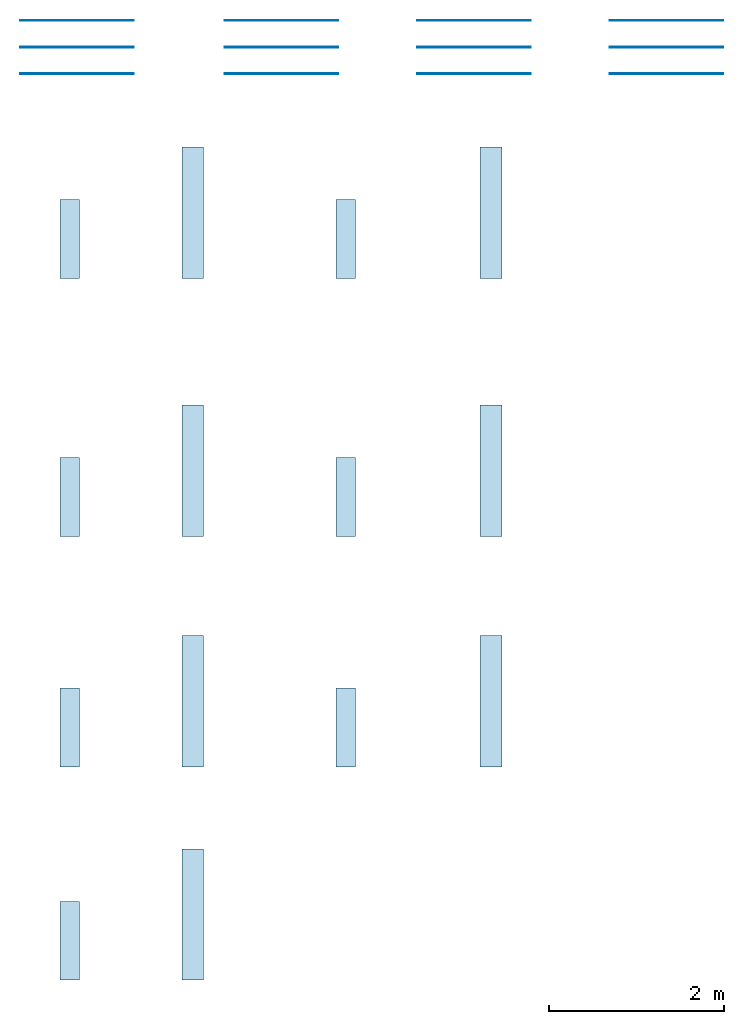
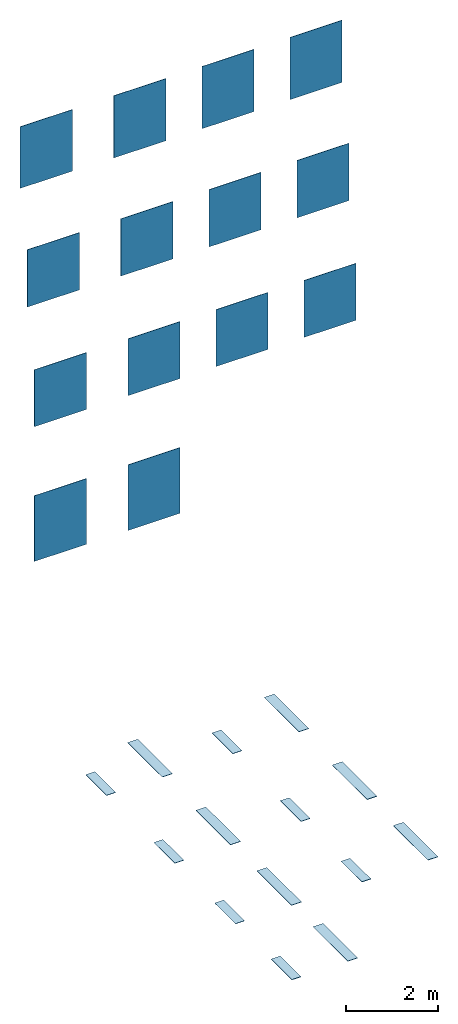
# One storey: 14 slabs, 14 walls.
"""IFC2X3 building model written with IfcOpenShell, lengths in millimetres."""

from ifc_helpers import new_model, entity, si_unit, converted_unit, derived_unit, direction, frame, frame_2d, origin, origin_2d_with_axis, place, context, subcontext, project, spatial, rectangle, extrude, material, layer, layer_set, layer_usage, type_object, element, save


model = new_model("IFC2X3")

# Units and contexts
model_context = context("Model", 3, precision=0.01, world=origin(), true_north=direction((6.12303176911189e-17, 1.0)))
body_context = subcontext(model_context, "Body", "Model", "MODEL_VIEW")
ifc_project = project(units=[si_unit("LENGTHUNIT", "METRE", prefix="MILLI"), si_unit("AREAUNIT", "SQUARE_METRE"), si_unit("VOLUMEUNIT", "CUBIC_METRE"), converted_unit("PLANEANGLEUNIT", "DEGREE", entity("IfcRatioMeasure", 0.0174532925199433), si_unit("PLANEANGLEUNIT", "RADIAN"), dimensions=[0, 0, 0, 0, 0, 0, 0]), si_unit("MASSUNIT", "GRAM", prefix="KILO"), derived_unit("MASSDENSITYUNIT", [(si_unit("MASSUNIT", "GRAM", prefix="KILO"), 1), (si_unit("LENGTHUNIT", "METRE"), -3)]), derived_unit("MOMENTOFINERTIAUNIT", [(si_unit("LENGTHUNIT", "METRE"), 4)]), si_unit("TIMEUNIT", "SECOND"), si_unit("FREQUENCYUNIT", "HERTZ"), si_unit("THERMODYNAMICTEMPERATUREUNIT", "DEGREE_CELSIUS"), derived_unit("THERMALTRANSMITTANCEUNIT", [(si_unit("MASSUNIT", "GRAM", prefix="KILO"), 1), (si_unit("THERMODYNAMICTEMPERATUREUNIT", "KELVIN"), -1), (si_unit("TIMEUNIT", "SECOND"), -3)]), derived_unit("VOLUMETRICFLOWRATEUNIT", [(si_unit("LENGTHUNIT", "METRE"), 3), (si_unit("TIMEUNIT", "SECOND"), -1)]), si_unit("ELECTRICCURRENTUNIT", "AMPERE"), si_unit("ELECTRICVOLTAGEUNIT", "VOLT"), si_unit("POWERUNIT", "WATT"), si_unit("FORCEUNIT", "NEWTON", prefix="KILO"), si_unit("ILLUMINANCEUNIT", "LUX"), si_unit("LUMINOUSFLUXUNIT", "LUMEN"), si_unit("LUMINOUSINTENSITYUNIT", "CANDELA"), derived_unit("USERDEFINED", [(si_unit("MASSUNIT", "GRAM", prefix="KILO"), -1), (si_unit("LENGTHUNIT", "METRE"), -2), (si_unit("TIMEUNIT", "SECOND"), 3), (si_unit("LUMINOUSFLUXUNIT", "LUMEN"), 1)]), derived_unit("LINEARVELOCITYUNIT", [(si_unit("LENGTHUNIT", "METRE"), 1), (si_unit("TIMEUNIT", "SECOND"), -1)]), si_unit("PRESSUREUNIT", "PASCAL"), derived_unit("USERDEFINED", [(si_unit("LENGTHUNIT", "METRE"), -2), (si_unit("MASSUNIT", "GRAM", prefix="KILO"), 1), (si_unit("TIMEUNIT", "SECOND"), -2)]), derived_unit("LINEARFORCEUNIT", [(si_unit("MASSUNIT", "GRAM", prefix="KILO"), 1), (si_unit("LENGTHUNIT", "METRE"), 1), (si_unit("TIMEUNIT", "SECOND"), -2), (si_unit("LENGTHUNIT", "METRE"), -1)]), derived_unit("PLANARFORCEUNIT", [(si_unit("MASSUNIT", "GRAM", prefix="KILO"), 1), (si_unit("LENGTHUNIT", "METRE"), 1), (si_unit("TIMEUNIT", "SECOND"), -2), (si_unit("LENGTHUNIT", "METRE"), -2)])], contexts=[model_context])

# Site, building, storey
site_placement = place(None, origin())
site = spatial("IfcSite", under=ifc_project, at=site_placement, Name="Default", CompositionType="ELEMENT")
building_placement = place(site_placement, origin())
building = spatial("IfcBuilding", under=site, at=building_placement, CompositionType="ELEMENT")
storey_placement = place(building_placement, origin())
storey = spatial("IfcBuildingStorey", under=building, at=storey_placement, Name="Level 0", CompositionType="ELEMENT", Elevation=0.0)

# Slabs
ifc_material_1 = material(Name="Deck-Blaze-22.5x90 LZ22")
ifc_layer_1 = layer(ifc_material_1, 9.0)
ifc_material_2 = material(Name="<Unnamed>")
ifc_layer_2 = layer(ifc_material_2, 1.0)
ifc_layer_set_1 = layer_set([ifc_layer_1, ifc_layer_2], Name="Floor:Floor_Tiles_Refin-Deck-Blaze-22.5x90 LZ22")
ifc_layer_usage_1 = layer_usage(ifc_layer_set_1, "AXIS3", "POSITIVE", 0.0)
slab_type_1 = type_object("IfcSlabType", Name="Floor:Floor_Tiles_Refin-Deck-Blaze-22.5x90 LZ22", PredefinedType="FLOOR", material=ifc_layer_set_1)
slab_1_placement = place(storey_placement, origin())
element("IfcSlab", 1, at=slab_1_placement, inside=storey, type_object=slab_type_1, material=ifc_layer_usage_1, Name="Floor:Floor_Tiles_Refin-Deck-Blaze-22.5x90 LZ22", ObjectType="Floor:Floor_Tiles_Refin-Deck-Blaze-22.5x90 LZ22", PredefinedType="FLOOR", context=body_context, shape_type="SweptSolid", body=[
    extrude(rectangle(XDim=900.0, YDim=225.0, at=frame_2d((5.40012479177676e-13, -5.40012479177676e-13), x_axis=(1.0, 0.0))), frame((6486.87520617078, 5639.4623742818, 0.0), z_axis=(0.0, 0.0, -1.0), x_axis=(0.0, 1.0, 0.0)), (0.0, 0.0, 1.0), 10.0),
])
ifc_material_3 = material(Name="Deck-Blaze-25x150 LX84")
ifc_layer_3 = layer(ifc_material_3, 9.0)
ifc_layer_4 = layer(ifc_material_2, 1.0)
ifc_layer_set_2 = layer_set([ifc_layer_3, ifc_layer_4], Name="Floor:Floor_Tiles_Refin-Deck-Blaze-25x150 LX84")
ifc_layer_usage_2 = layer_usage(ifc_layer_set_2, "AXIS3", "POSITIVE", 0.0)
slab_type_2 = type_object("IfcSlabType", Name="Floor:Floor_Tiles_Refin-Deck-Blaze-25x150 LX84", PredefinedType="FLOOR", material=ifc_layer_set_2)
slab_2_placement = place(storey_placement, origin())
element("IfcSlab", 2, at=slab_2_placement, inside=storey, type_object=slab_type_2, material=ifc_layer_usage_2, Name="Floor:Floor_Tiles_Refin-Deck-Blaze-25x150 LX84", ObjectType="Floor:Floor_Tiles_Refin-Deck-Blaze-25x150 LX84", PredefinedType="FLOOR", context=body_context, shape_type="SweptSolid", body=[
    extrude(rectangle(XDim=1500.0, YDim=249.999999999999, at=frame_2d((-5.11590769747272e-13, 0.0), x_axis=(1.0, 0.0))), frame((7892.39240545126, 5938.41920639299, 0.0), z_axis=(0.0, 0.0, -1.0), x_axis=(0.0, 1.0, 0.0)), (0.0, 0.0, 1.0), 10.0),
])
ifc_material_4 = material(Name="Deck-Bright-22.5x90 LZ23")
ifc_layer_5 = layer(ifc_material_4, 9.0)
ifc_layer_6 = layer(ifc_material_2, 1.0)
ifc_layer_set_3 = layer_set([ifc_layer_5, ifc_layer_6], Name="Floor:Floor_Tiles_Refin-Deck-Bright-22.5x90 LZ23")
ifc_layer_usage_3 = layer_usage(ifc_layer_set_3, "AXIS3", "POSITIVE", 0.0)
slab_type_3 = type_object("IfcSlabType", Name="Floor:Floor_Tiles_Refin-Deck-Bright-22.5x90 LZ23", PredefinedType="FLOOR", material=ifc_layer_set_3)
slab_3_placement = place(storey_placement, origin())
element("IfcSlab", 3, at=slab_3_placement, inside=storey, type_object=slab_type_3, material=ifc_layer_usage_3, Name="Floor:Floor_Tiles_Refin-Deck-Bright-22.5x90 LZ23", ObjectType="Floor:Floor_Tiles_Refin-Deck-Bright-22.5x90 LZ23", PredefinedType="FLOOR", context=body_context, shape_type="SweptSolid", body=[
    extrude(rectangle(XDim=900.0, YDim=225.0, at=frame_2d((-5.40012479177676e-13, -5.40012479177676e-13), x_axis=(1.0, 0.0))), frame((9639.68614186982, 5639.46237428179, 0.0), z_axis=(0.0, 0.0, -1.0), x_axis=(0.0, 1.0, 0.0)), (0.0, 0.0, 1.0), 10.0),
])
ifc_material_5 = material(Name="Deck-Bright-25x150 LX85")
ifc_layer_7 = layer(ifc_material_5, 9.0)
ifc_layer_8 = layer(ifc_material_2, 1.0)
ifc_layer_set_4 = layer_set([ifc_layer_7, ifc_layer_8], Name="Floor:Floor_Tiles_Refin-Deck-Bright-25x150 LX85")
ifc_layer_usage_4 = layer_usage(ifc_layer_set_4, "AXIS3", "POSITIVE", 0.0)
slab_type_4 = type_object("IfcSlabType", Name="Floor:Floor_Tiles_Refin-Deck-Bright-25x150 LX85", PredefinedType="FLOOR", material=ifc_layer_set_4)
slab_4_placement = place(storey_placement, origin())
element("IfcSlab", 4, at=slab_4_placement, inside=storey, type_object=slab_type_4, material=ifc_layer_usage_4, Name="Floor:Floor_Tiles_Refin-Deck-Bright-25x150 LX85", ObjectType="Floor:Floor_Tiles_Refin-Deck-Bright-25x150 LX85", PredefinedType="FLOOR", context=body_context, shape_type="SweptSolid", body=[
    extrude(rectangle(XDim=1500.0, YDim=249.999999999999, at=frame_2d((-5.11590769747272e-13, 0.0), x_axis=(1.0, 0.0))), frame((11302.3924054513, 5938.41920639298, 0.0), z_axis=(0.0, 0.0, -1.0), x_axis=(0.0, 1.0, 0.0)), (0.0, 0.0, 1.0), 10.0),
])
ifc_material_6 = material(Name="Deck-Dawn-22.5x90 LZ24")
ifc_layer_9 = layer(ifc_material_6, 9.0)
ifc_layer_10 = layer(ifc_material_2, 1.0)
ifc_layer_set_5 = layer_set([ifc_layer_9, ifc_layer_10], Name="Floor:Floor_Tiles_Refin-Deck-Dawn-22.5x90 LZ24")
ifc_layer_usage_5 = layer_usage(ifc_layer_set_5, "AXIS3", "POSITIVE", 0.0)
slab_type_5 = type_object("IfcSlabType", Name="Floor:Floor_Tiles_Refin-Deck-Dawn-22.5x90 LZ24", PredefinedType="FLOOR", material=ifc_layer_set_5)
slab_5_placement = place(storey_placement, origin())
element("IfcSlab", 5, at=slab_5_placement, inside=storey, type_object=slab_type_5, material=ifc_layer_usage_5, Name="Floor:Floor_Tiles_Refin-Deck-Dawn-22.5x90 LZ24", ObjectType="Floor:Floor_Tiles_Refin-Deck-Dawn-22.5x90 LZ24", PredefinedType="FLOOR", context=body_context, shape_type="SweptSolid", body=[
    extrude(rectangle(XDim=900.0, YDim=225.0, at=frame_2d((0.0, -5.40012479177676e-13), x_axis=(1.0, 0.0))), frame((6486.87520617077, 2689.4623742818, 0.0), z_axis=(0.0, 0.0, -1.0), x_axis=(0.0, 1.0, 0.0)), (0.0, 0.0, 1.0), 10.0),
])
ifc_material_7 = material(Name="Deck-Dawn-25x150 LX86")
ifc_layer_11 = layer(ifc_material_7, 9.0)
ifc_layer_12 = layer(ifc_material_2, 1.0)
ifc_layer_set_6 = layer_set([ifc_layer_11, ifc_layer_12], Name="Floor:Floor_Tiles_Refin-Deck-Dawn-25x150 LX86")
ifc_layer_usage_6 = layer_usage(ifc_layer_set_6, "AXIS3", "POSITIVE", 0.0)
slab_type_6 = type_object("IfcSlabType", Name="Floor:Floor_Tiles_Refin-Deck-Dawn-25x150 LX86", PredefinedType="FLOOR", material=ifc_layer_set_6)
slab_6_placement = place(storey_placement, origin())
element("IfcSlab", 6, at=slab_6_placement, inside=storey, type_object=slab_type_6, material=ifc_layer_usage_6, Name="Floor:Floor_Tiles_Refin-Deck-Dawn-25x150 LX86", ObjectType="Floor:Floor_Tiles_Refin-Deck-Dawn-25x150 LX86", PredefinedType="FLOOR", context=body_context, shape_type="SweptSolid", body=[
    extrude(rectangle(XDim=1500.0, YDim=249.999999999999, at=origin_2d_with_axis()), frame((7892.39240545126, 2989.4623742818, 0.0), z_axis=(0.0, 0.0, -1.0), x_axis=(0.0, 1.0, 0.0)), (0.0, 0.0, 1.0), 10.0),
])
ifc_material_8 = material(Name="Deck-Day-22.5x90 LZ25")
ifc_layer_13 = layer(ifc_material_8, 9.0)
ifc_layer_14 = layer(ifc_material_2, 1.0)
ifc_layer_set_7 = layer_set([ifc_layer_13, ifc_layer_14], Name="Floor:Floor_Tiles_Refin-Deck-Day-22.5x90 LZ25")
ifc_layer_usage_7 = layer_usage(ifc_layer_set_7, "AXIS3", "POSITIVE", 0.0)
slab_type_7 = type_object("IfcSlabType", Name="Floor:Floor_Tiles_Refin-Deck-Day-22.5x90 LZ25", PredefinedType="FLOOR", material=ifc_layer_set_7)
slab_7_placement = place(storey_placement, origin())
element("IfcSlab", 7, at=slab_7_placement, inside=storey, type_object=slab_type_7, material=ifc_layer_usage_7, Name="Floor:Floor_Tiles_Refin-Deck-Day-22.5x90 LZ25", ObjectType="Floor:Floor_Tiles_Refin-Deck-Day-22.5x90 LZ25", PredefinedType="FLOOR", context=body_context, shape_type="SweptSolid", body=[
    extrude(rectangle(XDim=900.0, YDim=225.0, at=frame_2d((0.0, -5.40012479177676e-13), x_axis=(1.0, 0.0))), frame((9639.68614186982, 2689.46237428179, 0.0), z_axis=(0.0, 0.0, -1.0), x_axis=(0.0, 1.0, 0.0)), (0.0, 0.0, 1.0), 10.0),
])
ifc_material_9 = material(Name="Deck-Day-25x150 LX87")
ifc_layer_15 = layer(ifc_material_9, 9.0)
ifc_layer_16 = layer(ifc_material_2, 1.0)
ifc_layer_set_8 = layer_set([ifc_layer_15, ifc_layer_16], Name="Floor:Floor_Tiles_Refin-Deck-Day-25x150 LX87")
ifc_layer_usage_8 = layer_usage(ifc_layer_set_8, "AXIS3", "POSITIVE", 0.0)
slab_type_8 = type_object("IfcSlabType", Name="Floor:Floor_Tiles_Refin-Deck-Day-25x150 LX87", PredefinedType="FLOOR", material=ifc_layer_set_8)
slab_8_placement = place(storey_placement, origin())
element("IfcSlab", 8, at=slab_8_placement, inside=storey, type_object=slab_type_8, material=ifc_layer_usage_8, Name="Floor:Floor_Tiles_Refin-Deck-Day-25x150 LX87", ObjectType="Floor:Floor_Tiles_Refin-Deck-Day-25x150 LX87", PredefinedType="FLOOR", context=body_context, shape_type="SweptSolid", body=[
    extrude(rectangle(XDim=1500.0, YDim=249.999999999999, at=origin_2d_with_axis()), frame((11302.1861418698, 2989.46237428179, 0.0), z_axis=(0.0, 0.0, -1.0), x_axis=(0.0, 1.0, 0.0)), (0.0, 0.0, 1.0), 10.0),
])
ifc_material_10 = material(Name="Deck-Dusk-22.5x90 LZ26")
ifc_layer_17 = layer(ifc_material_10, 9.0)
ifc_layer_18 = layer(ifc_material_2, 1.0)
ifc_layer_set_9 = layer_set([ifc_layer_17, ifc_layer_18], Name="Floor:Floor_Tiles_Refin-Deck-Dusk-22.5x90 LZ26")
ifc_layer_usage_9 = layer_usage(ifc_layer_set_9, "AXIS3", "POSITIVE", 0.0)
slab_type_9 = type_object("IfcSlabType", Name="Floor:Floor_Tiles_Refin-Deck-Dusk-22.5x90 LZ26", PredefinedType="FLOOR", material=ifc_layer_set_9)
slab_9_placement = place(storey_placement, origin())
element("IfcSlab", 9, at=slab_9_placement, inside=storey, type_object=slab_type_9, material=ifc_layer_usage_9, Name="Floor:Floor_Tiles_Refin-Deck-Dusk-22.5x90 LZ26", ObjectType="Floor:Floor_Tiles_Refin-Deck-Dusk-22.5x90 LZ26", PredefinedType="FLOOR", context=body_context, shape_type="SweptSolid", body=[
    extrude(rectangle(XDim=900.0, YDim=225.0, at=frame_2d((0.0, -5.40012479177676e-13), x_axis=(1.0, 0.0))), frame((6486.87520617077, 54.4623742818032, 0.0), z_axis=(0.0, 0.0, -1.0), x_axis=(0.0, 1.0, 0.0)), (0.0, 0.0, 1.0), 10.0),
])
ifc_material_11 = material(Name="Deck-Dusk-25x150 LX88")
ifc_layer_19 = layer(ifc_material_11, 9.0)
ifc_layer_20 = layer(ifc_material_2, 1.0)
ifc_layer_set_10 = layer_set([ifc_layer_19, ifc_layer_20], Name="Floor:Floor_Tiles_Refin-Deck-Dusk-25x150 LX88")
ifc_layer_usage_10 = layer_usage(ifc_layer_set_10, "AXIS3", "POSITIVE", 0.0)
slab_type_10 = type_object("IfcSlabType", Name="Floor:Floor_Tiles_Refin-Deck-Dusk-25x150 LX88", PredefinedType="FLOOR", material=ifc_layer_set_10)
slab_10_placement = place(storey_placement, origin())
element("IfcSlab", 10, at=slab_10_placement, inside=storey, type_object=slab_type_10, material=ifc_layer_usage_10, Name="Floor:Floor_Tiles_Refin-Deck-Dusk-25x150 LX88", ObjectType="Floor:Floor_Tiles_Refin-Deck-Dusk-25x150 LX88", PredefinedType="FLOOR", context=body_context, shape_type="SweptSolid", body=[
    extrude(rectangle(XDim=1500.0, YDim=249.999999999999, at=origin_2d_with_axis()), frame((7892.39240545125, 353.436723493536, 0.0), z_axis=(0.0, 0.0, -1.0), x_axis=(0.0, 1.0, 0.0)), (0.0, 0.0, 1.0), 10.0),
])
ifc_material_12 = material(Name="Deck-Flare-22.5x90 LZ27")
ifc_layer_21 = layer(ifc_material_12, 9.0)
ifc_layer_22 = layer(ifc_material_2, 1.0)
ifc_layer_set_11 = layer_set([ifc_layer_21, ifc_layer_22], Name="Floor:Floor_Tiles_Refin-Deck-Flare-22.5x90 LZ27")
ifc_layer_usage_11 = layer_usage(ifc_layer_set_11, "AXIS3", "POSITIVE", 0.0)
slab_type_11 = type_object("IfcSlabType", Name="Floor:Floor_Tiles_Refin-Deck-Flare-22.5x90 LZ27", PredefinedType="FLOOR", material=ifc_layer_set_11)
slab_11_placement = place(storey_placement, origin())
element("IfcSlab", 11, at=slab_11_placement, inside=storey, type_object=slab_type_11, material=ifc_layer_usage_11, Name="Floor:Floor_Tiles_Refin-Deck-Flare-22.5x90 LZ27", ObjectType="Floor:Floor_Tiles_Refin-Deck-Flare-22.5x90 LZ27", PredefinedType="FLOOR", context=body_context, shape_type="SweptSolid", body=[
    extrude(rectangle(XDim=900.0, YDim=225.0, at=frame_2d((0.0, -5.40012479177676e-13), x_axis=(1.0, 0.0))), frame((9639.68614186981, 54.4623742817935, 0.0), z_axis=(0.0, 0.0, -1.0), x_axis=(0.0, 1.0, 0.0)), (0.0, 0.0, 1.0), 10.0),
])
ifc_material_13 = material(Name="Deck-Flare-25x150 LX89")
ifc_layer_23 = layer(ifc_material_13, 9.0)
ifc_layer_24 = layer(ifc_material_2, 1.0)
ifc_layer_set_12 = layer_set([ifc_layer_23, ifc_layer_24], Name="Floor:Floor_Tiles_Refin-Deck-Flare-25x150 LX89")
ifc_layer_usage_12 = layer_usage(ifc_layer_set_12, "AXIS3", "POSITIVE", 0.0)
slab_type_12 = type_object("IfcSlabType", Name="Floor:Floor_Tiles_Refin-Deck-Flare-25x150 LX89", PredefinedType="FLOOR", material=ifc_layer_set_12)
slab_12_placement = place(storey_placement, origin())
element("IfcSlab", 12, at=slab_12_placement, inside=storey, type_object=slab_type_12, material=ifc_layer_usage_12, Name="Floor:Floor_Tiles_Refin-Deck-Flare-25x150 LX89", ObjectType="Floor:Floor_Tiles_Refin-Deck-Flare-25x150 LX89", PredefinedType="FLOOR", context=body_context, shape_type="SweptSolid", body=[
    extrude(rectangle(XDim=1500.0, YDim=249.999999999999, at=origin_2d_with_axis()), frame((11302.1861418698, 353.436723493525, 0.0), z_axis=(0.0, 0.0, -1.0), x_axis=(0.0, 1.0, 0.0)), (0.0, 0.0, 1.0), 10.0),
])
ifc_material_14 = material(Name="Deck-Night-22.5x90 LJ72")
ifc_layer_25 = layer(ifc_material_14, 9.0)
ifc_layer_26 = layer(ifc_material_2, 1.0)
ifc_layer_set_13 = layer_set([ifc_layer_25, ifc_layer_26], Name="Floor:Floor_Tiles_Refin-Deck-Night-22.5x90 LJ72")
ifc_layer_usage_13 = layer_usage(ifc_layer_set_13, "AXIS3", "POSITIVE", 0.0)
slab_type_13 = type_object("IfcSlabType", Name="Floor:Floor_Tiles_Refin-Deck-Night-22.5x90 LJ72", PredefinedType="FLOOR", material=ifc_layer_set_13)
slab_13_placement = place(storey_placement, origin())
element("IfcSlab", 13, at=slab_13_placement, inside=storey, type_object=slab_type_13, material=ifc_layer_usage_13, Name="Floor:Floor_Tiles_Refin-Deck-Night-22.5x90 LJ72", ObjectType="Floor:Floor_Tiles_Refin-Deck-Night-22.5x90 LJ72", PredefinedType="FLOOR", context=body_context, shape_type="SweptSolid", body=[
    extrude(rectangle(XDim=900.0, YDim=225.0, at=frame_2d((0.0, -5.40012479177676e-13), x_axis=(1.0, 0.0))), frame((6486.87520617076, -2382.58892729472, 0.0), z_axis=(0.0, 0.0, -1.0), x_axis=(0.0, 1.0, 0.0)), (0.0, 0.0, 1.0), 10.0),
])
ifc_material_15 = material(Name="Deck-Night-25x150 LJ71")
ifc_layer_27 = layer(ifc_material_15, 9.0)
ifc_layer_28 = layer(ifc_material_2, 1.0)
ifc_layer_set_14 = layer_set([ifc_layer_27, ifc_layer_28], Name="Floor:Floor_Tiles_Refin-Deck-Night-25x150 LJ71")
ifc_layer_usage_14 = layer_usage(ifc_layer_set_14, "AXIS3", "POSITIVE", 0.0)
slab_type_14 = type_object("IfcSlabType", Name="Floor:Floor_Tiles_Refin-Deck-Night-25x150 LJ71", PredefinedType="FLOOR", material=ifc_layer_set_14)
slab_14_placement = place(storey_placement, origin())
element("IfcSlab", 14, at=slab_14_placement, inside=storey, type_object=slab_type_14, material=ifc_layer_usage_14, Name="Floor:Floor_Tiles_Refin-Deck-Night-25x150 LJ71", ObjectType="Floor:Floor_Tiles_Refin-Deck-Night-25x150 LJ71", PredefinedType="FLOOR", context=body_context, shape_type="SweptSolid", body=[
    extrude(rectangle(XDim=1500.0, YDim=249.999999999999, at=origin_2d_with_axis()), frame((7892.39240545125, -2082.58892729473, 0.0), z_axis=(0.0, 0.0, -1.0), x_axis=(0.0, 1.0, 0.0)), (0.0, 0.0, 1.0), 10.0),
])

# Walls
ifc_layer_29 = layer(ifc_material_2, 1.0)
ifc_layer_30 = layer(ifc_material_3, 9.0)
ifc_layer_set_15 = layer_set([ifc_layer_29, ifc_layer_30], Name="Basic Wall:Wall_Tiles_Refin-Deck-Blaze-25x150 LX84")
ifc_layer_usage_15 = layer_usage(ifc_layer_set_15, "AXIS2", "NEGATIVE", 5.0)
wall_type_1 = type_object("IfcWallType", Name="Basic Wall:Wall_Tiles_Refin-Deck-Blaze-25x150 LX84", PredefinedType="STANDARD", material=ifc_layer_set_15)
wall_1_placement = place(storey_placement, frame((8257.37520617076, 8137.38386313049, 14387.6770443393)))
element("IfcWallStandardCase", 15, at=wall_1_placement, inside=storey, type_object=wall_type_1, material=ifc_layer_usage_15, Name="Basic Wall:Wall_Tiles_Refin-Deck-Blaze-25x150 LX84", ObjectType="Basic Wall:Wall_Tiles_Refin-Deck-Blaze-25x150 LX84", context=body_context, shape_type="SweptSolid", body=[
    extrude(rectangle(XDim=1300.0, YDim=9.99999999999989, at=frame_2d((650.0, 7.63833440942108e-14), x_axis=(-1.0, 0.0))), origin(), (0.0, 0.0, 1.0), 1641.74173522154),
])
ifc_layer_31 = layer(ifc_material_2, 1.0)
ifc_layer_32 = layer(ifc_material_4, 9.0)
ifc_layer_set_16 = layer_set([ifc_layer_31, ifc_layer_32], Name="Basic Wall:Wall_Tiles_Refin-Deck-Bright-22.5x90 LZ23")
ifc_layer_usage_16 = layer_usage(ifc_layer_set_16, "AXIS2", "NEGATIVE", 5.0)
wall_type_2 = type_object("IfcWallType", Name="Basic Wall:Wall_Tiles_Refin-Deck-Bright-22.5x90 LZ23", PredefinedType="STANDARD", material=ifc_layer_set_16)
wall_2_placement = place(storey_placement, frame((10457.3752061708, 8137.38386313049, 14387.6770443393)))
element("IfcWallStandardCase", 16, at=wall_2_placement, inside=storey, type_object=wall_type_2, material=ifc_layer_usage_16, Name="Basic Wall:Wall_Tiles_Refin-Deck-Bright-22.5x90 LZ23", ObjectType="Basic Wall:Wall_Tiles_Refin-Deck-Bright-22.5x90 LZ23", context=body_context, shape_type="SweptSolid", body=[
    extrude(rectangle(XDim=1300.0, YDim=9.99999999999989, at=frame_2d((650.0, 7.63833440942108e-14), x_axis=(-1.0, 0.0))), origin(), (0.0, 0.0, 1.0), 1641.74173522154),
])
ifc_layer_33 = layer(ifc_material_2, 1.0)
ifc_layer_34 = layer(ifc_material_1, 9.0)
ifc_layer_set_17 = layer_set([ifc_layer_33, ifc_layer_34], Name="Basic Wall:Wall_Tiles_Refin-Deck-Blaze-22.5x90 LZ22")
ifc_layer_usage_17 = layer_usage(ifc_layer_set_17, "AXIS2", "NEGATIVE", 5.0)
wall_type_3 = type_object("IfcWallType", Name="Basic Wall:Wall_Tiles_Refin-Deck-Blaze-22.5x90 LZ22", PredefinedType="STANDARD", material=ifc_layer_set_17)
wall_3_placement = place(storey_placement, frame((5917.37520617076, 8137.38386313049, 14403.726734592)))
element("IfcWallStandardCase", 17, at=wall_3_placement, inside=storey, type_object=wall_type_3, material=ifc_layer_usage_17, Name="Basic Wall:Wall_Tiles_Refin-Deck-Blaze-22.5x90 LZ22", ObjectType="Basic Wall:Wall_Tiles_Refin-Deck-Blaze-22.5x90 LZ22", context=body_context, shape_type="SweptSolid", body=[
    extrude(rectangle(XDim=1300.0, YDim=9.99999999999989, at=frame_2d((650.0, 7.63833440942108e-14), x_axis=(-1.0, 0.0))), origin(), (0.0, 0.0, 1.0), 1625.69204496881),
])
ifc_layer_35 = layer(ifc_material_2, 1.0)
ifc_layer_36 = layer(ifc_material_6, 9.0)
ifc_layer_set_18 = layer_set([ifc_layer_35, ifc_layer_36], Name="Basic Wall:Wall_Tiles_Refin-Deck-Dawn-22.5x90 LZ24")
ifc_layer_usage_18 = layer_usage(ifc_layer_set_18, "AXIS2", "NEGATIVE", 5.0)
wall_type_4 = type_object("IfcWallType", Name="Basic Wall:Wall_Tiles_Refin-Deck-Dawn-22.5x90 LZ24", PredefinedType="STANDARD", material=ifc_layer_set_18)
wall_4_placement = place(storey_placement, frame((5917.37520617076, 7832.38386313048, 11452.5436262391)))
element("IfcWallStandardCase", 18, at=wall_4_placement, inside=storey, type_object=wall_type_4, material=ifc_layer_usage_18, Name="Basic Wall:Wall_Tiles_Refin-Deck-Dawn-22.5x90 LZ24", ObjectType="Basic Wall:Wall_Tiles_Refin-Deck-Dawn-22.5x90 LZ24", context=body_context, shape_type="SweptSolid", body=[
    extrude(rectangle(XDim=1300.0, YDim=9.99999999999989, at=frame_2d((650.0, 0.0), x_axis=(-1.0, 0.0))), origin(), (0.0, 0.0, 1.0), 1513.19855655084),
])
ifc_layer_37 = layer(ifc_material_2, 1.0)
ifc_layer_38 = layer(ifc_material_7, 9.0)
ifc_layer_set_19 = layer_set([ifc_layer_37, ifc_layer_38], Name="Basic Wall:Wall_Tiles_Refin-Deck-Dawn-25x150 LX86")
ifc_layer_usage_19 = layer_usage(ifc_layer_set_19, "AXIS2", "NEGATIVE", 5.0)
wall_type_5 = type_object("IfcWallType", Name="Basic Wall:Wall_Tiles_Refin-Deck-Dawn-25x150 LX86", PredefinedType="STANDARD", material=ifc_layer_set_19)
wall_5_placement = place(storey_placement, frame((8257.37520617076, 7832.38386313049, 11452.5436262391)))
element("IfcWallStandardCase", 19, at=wall_5_placement, inside=storey, type_object=wall_type_5, material=ifc_layer_usage_19, Name="Basic Wall:Wall_Tiles_Refin-Deck-Dawn-25x150 LX86", ObjectType="Basic Wall:Wall_Tiles_Refin-Deck-Dawn-25x150 LX86", context=body_context, shape_type="SweptSolid", body=[
    extrude(rectangle(XDim=1300.0, YDim=9.99999999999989, at=frame_2d((650.0, 0.0), x_axis=(-1.0, 0.0))), origin(), (0.0, 0.0, 1.0), 1513.19855655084),
])
ifc_layer_39 = layer(ifc_material_2, 1.0)
ifc_layer_40 = layer(ifc_material_8, 9.0)
ifc_layer_set_20 = layer_set([ifc_layer_39, ifc_layer_40], Name="Basic Wall:Wall_Tiles_Refin-Deck-Day-22.5x90 LZ25")
ifc_layer_usage_20 = layer_usage(ifc_layer_set_20, "AXIS2", "NEGATIVE", 5.0)
wall_type_6 = type_object("IfcWallType", Name="Basic Wall:Wall_Tiles_Refin-Deck-Day-22.5x90 LZ25", PredefinedType="STANDARD", material=ifc_layer_set_20)
wall_6_placement = place(storey_placement, frame((10457.3752061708, 7832.38386313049, 11452.5436262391)))
element("IfcWallStandardCase", 20, at=wall_6_placement, inside=storey, type_object=wall_type_6, material=ifc_layer_usage_20, Name="Basic Wall:Wall_Tiles_Refin-Deck-Day-22.5x90 LZ25", ObjectType="Basic Wall:Wall_Tiles_Refin-Deck-Day-22.5x90 LZ25", context=body_context, shape_type="SweptSolid", body=[
    extrude(rectangle(XDim=1300.0, YDim=9.99999999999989, at=frame_2d((650.000000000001, 0.0), x_axis=(-1.0, 0.0))), origin(), (0.0, 0.0, 1.0), 1513.19855655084),
])
ifc_layer_41 = layer(ifc_material_2, 1.0)
ifc_layer_42 = layer(ifc_material_10, 9.0)
ifc_layer_set_21 = layer_set([ifc_layer_41, ifc_layer_42], Name="Basic Wall:Wall_Tiles_Refin-Deck-Dusk-22.5x90 LZ26")
ifc_layer_usage_21 = layer_usage(ifc_layer_set_21, "AXIS2", "NEGATIVE", 5.0)
wall_type_7 = type_object("IfcWallType", Name="Basic Wall:Wall_Tiles_Refin-Deck-Dusk-22.5x90 LZ26", PredefinedType="STANDARD", material=ifc_layer_set_21)
wall_7_placement = place(storey_placement, frame((5917.37520617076, 7527.38386313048, 8479.10272143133)))
element("IfcWallStandardCase", 21, at=wall_7_placement, inside=storey, type_object=wall_type_7, material=ifc_layer_usage_21, Name="Basic Wall:Wall_Tiles_Refin-Deck-Dusk-22.5x90 LZ26", ObjectType="Basic Wall:Wall_Tiles_Refin-Deck-Dusk-22.5x90 LZ26", context=body_context, shape_type="SweptSolid", body=[
    extrude(rectangle(XDim=1300.0, YDim=9.99999999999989, at=frame_2d((650.0, 0.0), x_axis=(-1.0, 0.0))), origin(), (0.0, 0.0, 1.0), 1502.57401590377),
])
ifc_layer_43 = layer(ifc_material_2, 1.0)
ifc_layer_44 = layer(ifc_material_11, 9.0)
ifc_layer_set_22 = layer_set([ifc_layer_43, ifc_layer_44], Name="Basic Wall:Wall_Tiles_Refin-Deck-Dusk-25x150 LX88")
ifc_layer_usage_22 = layer_usage(ifc_layer_set_22, "AXIS2", "NEGATIVE", 5.0)
wall_type_8 = type_object("IfcWallType", Name="Basic Wall:Wall_Tiles_Refin-Deck-Dusk-25x150 LX88", PredefinedType="STANDARD", material=ifc_layer_set_22)
wall_8_placement = place(storey_placement, frame((8257.37520617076, 7527.38386313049, 8479.10272143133)))
element("IfcWallStandardCase", 22, at=wall_8_placement, inside=storey, type_object=wall_type_8, material=ifc_layer_usage_22, Name="Basic Wall:Wall_Tiles_Refin-Deck-Dusk-25x150 LX88", ObjectType="Basic Wall:Wall_Tiles_Refin-Deck-Dusk-25x150 LX88", context=body_context, shape_type="SweptSolid", body=[
    extrude(rectangle(XDim=1300.0, YDim=9.99999999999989, at=frame_2d((650.0, 0.0), x_axis=(-1.0, 0.0))), origin(), (0.0, 0.0, 1.0), 1502.57401590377),
])
ifc_layer_45 = layer(ifc_material_2, 1.0)
ifc_layer_46 = layer(ifc_material_12, 9.0)
ifc_layer_set_23 = layer_set([ifc_layer_45, ifc_layer_46], Name="Basic Wall:Wall_Tiles_Refin-Deck-Flare-22.5x90 LZ27")
ifc_layer_usage_23 = layer_usage(ifc_layer_set_23, "AXIS2", "NEGATIVE", 5.0)
wall_type_9 = type_object("IfcWallType", Name="Basic Wall:Wall_Tiles_Refin-Deck-Flare-22.5x90 LZ27", PredefinedType="STANDARD", material=ifc_layer_set_23)
wall_9_placement = place(storey_placement, frame((10457.3752061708, 7527.38386313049, 8479.10272143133)))
element("IfcWallStandardCase", 23, at=wall_9_placement, inside=storey, type_object=wall_type_9, material=ifc_layer_usage_23, Name="Basic Wall:Wall_Tiles_Refin-Deck-Flare-22.5x90 LZ27", ObjectType="Basic Wall:Wall_Tiles_Refin-Deck-Flare-22.5x90 LZ27", context=body_context, shape_type="SweptSolid", body=[
    extrude(rectangle(XDim=1300.0, YDim=9.99999999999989, at=frame_2d((650.000000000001, 0.0), x_axis=(-1.0, 0.0))), origin(), (0.0, 0.0, 1.0), 1502.57401590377),
])
ifc_layer_47 = layer(ifc_material_2, 1.0)
ifc_layer_48 = layer(ifc_material_5, 9.0)
ifc_layer_set_24 = layer_set([ifc_layer_47, ifc_layer_48], Name="Basic Wall:Wall_Tiles_Refin-Deck-Bright-25x150 LX85")
ifc_layer_usage_24 = layer_usage(ifc_layer_set_24, "AXIS2", "NEGATIVE", 5.0)
wall_type_10 = type_object("IfcWallType", Name="Basic Wall:Wall_Tiles_Refin-Deck-Bright-25x150 LX85", PredefinedType="STANDARD", material=ifc_layer_set_24)
wall_10_placement = place(storey_placement, frame((12657.3752061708, 8137.3838631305, 14387.6770443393)))
element("IfcWallStandardCase", 24, at=wall_10_placement, inside=storey, type_object=wall_type_10, material=ifc_layer_usage_24, Name="Basic Wall:Wall_Tiles_Refin-Deck-Bright-25x150 LX85", ObjectType="Basic Wall:Wall_Tiles_Refin-Deck-Bright-25x150 LX85", context=body_context, shape_type="SweptSolid", body=[
    extrude(rectangle(XDim=1300.0, YDim=9.99999999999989, at=frame_2d((650.0, 7.63833440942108e-14), x_axis=(-1.0, 0.0))), origin(), (0.0, 0.0, 1.0), 1641.74173522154),
])
ifc_layer_49 = layer(ifc_material_2, 1.0)
ifc_layer_50 = layer(ifc_material_9, 9.0)
ifc_layer_set_25 = layer_set([ifc_layer_49, ifc_layer_50], Name="Basic Wall:Wall_Tiles_Refin-Deck-Day-25x150 LX87")
ifc_layer_usage_25 = layer_usage(ifc_layer_set_25, "AXIS2", "NEGATIVE", 5.0)
wall_type_11 = type_object("IfcWallType", Name="Basic Wall:Wall_Tiles_Refin-Deck-Day-25x150 LX87", PredefinedType="STANDARD", material=ifc_layer_set_25)
wall_11_placement = place(storey_placement, frame((12657.3752061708, 7832.3838631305, 11452.5436262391)))
element("IfcWallStandardCase", 25, at=wall_11_placement, inside=storey, type_object=wall_type_11, material=ifc_layer_usage_25, Name="Basic Wall:Wall_Tiles_Refin-Deck-Day-25x150 LX87", ObjectType="Basic Wall:Wall_Tiles_Refin-Deck-Day-25x150 LX87", context=body_context, shape_type="SweptSolid", body=[
    extrude(rectangle(XDim=1300.0, YDim=9.99999999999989, at=frame_2d((650.0, 0.0), x_axis=(-1.0, 0.0))), origin(), (0.0, 0.0, 1.0), 1513.19855655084),
])
ifc_layer_51 = layer(ifc_material_2, 1.0)
ifc_layer_52 = layer(ifc_material_13, 9.0)
ifc_layer_set_26 = layer_set([ifc_layer_51, ifc_layer_52], Name="Basic Wall:Wall_Tiles_Refin-Deck-Flare-25x150 LX89")
ifc_layer_usage_26 = layer_usage(ifc_layer_set_26, "AXIS2", "NEGATIVE", 5.0)
wall_type_12 = type_object("IfcWallType", Name="Basic Wall:Wall_Tiles_Refin-Deck-Flare-25x150 LX89", PredefinedType="STANDARD", material=ifc_layer_set_26)
wall_12_placement = place(storey_placement, frame((12657.3752061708, 7527.3838631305, 8479.10272143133)))
element("IfcWallStandardCase", 26, at=wall_12_placement, inside=storey, type_object=wall_type_12, material=ifc_layer_usage_26, Name="Basic Wall:Wall_Tiles_Refin-Deck-Flare-25x150 LX89", ObjectType="Basic Wall:Wall_Tiles_Refin-Deck-Flare-25x150 LX89", context=body_context, shape_type="SweptSolid", body=[
    extrude(rectangle(XDim=1300.0, YDim=9.99999999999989, at=frame_2d((650.0, 0.0), x_axis=(-1.0, 0.0))), origin(), (0.0, 0.0, 1.0), 1502.57401590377),
])
ifc_layer_53 = layer(ifc_material_2, 1.0)
ifc_layer_54 = layer(ifc_material_15, 9.0)
ifc_layer_set_27 = layer_set([ifc_layer_53, ifc_layer_54], Name="Basic Wall:Wall_Tiles_Refin-Deck-Night-25x150 LJ71")
ifc_layer_usage_27 = layer_usage(ifc_layer_set_27, "AXIS2", "NEGATIVE", 5.0)
wall_type_13 = type_object("IfcWallType", Name="Basic Wall:Wall_Tiles_Refin-Deck-Night-25x150 LJ71", PredefinedType="STANDARD", material=ifc_layer_set_27)
wall_13_placement = place(storey_placement, frame((8257.37520617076, 7527.38386313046, 4921.07859745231)))
element("IfcWallStandardCase", 27, at=wall_13_placement, inside=storey, type_object=wall_type_13, material=ifc_layer_usage_27, Name="Basic Wall:Wall_Tiles_Refin-Deck-Night-25x150 LJ71", ObjectType="Basic Wall:Wall_Tiles_Refin-Deck-Night-25x150 LJ71", context=body_context, shape_type="SweptSolid", body=[
    extrude(rectangle(XDim=1300.0, YDim=9.99999999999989, at=frame_2d((650.0, 0.0), x_axis=(-1.0, 0.0))), origin(), (0.0, 0.0, 1.0), 1733.84304651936),
])
ifc_layer_55 = layer(ifc_material_2, 1.0)
ifc_layer_56 = layer(ifc_material_14, 9.0)
ifc_layer_set_28 = layer_set([ifc_layer_55, ifc_layer_56], Name="Basic Wall:Wall_Tiles_Refin-Deck-Night-22.5x90 LJ72")
ifc_layer_usage_28 = layer_usage(ifc_layer_set_28, "AXIS2", "NEGATIVE", 5.0)
wall_type_14 = type_object("IfcWallType", Name="Basic Wall:Wall_Tiles_Refin-Deck-Night-22.5x90 LJ72", PredefinedType="STANDARD", material=ifc_layer_set_28)
wall_14_placement = place(storey_placement, frame((5917.37520617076, 7527.38386313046, 4921.07859745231)))
element("IfcWallStandardCase", 28, at=wall_14_placement, inside=storey, type_object=wall_type_14, material=ifc_layer_usage_28, Name="Basic Wall:Wall_Tiles_Refin-Deck-Night-22.5x90 LJ72", ObjectType="Basic Wall:Wall_Tiles_Refin-Deck-Night-22.5x90 LJ72", context=body_context, shape_type="SweptSolid", body=[
    extrude(rectangle(XDim=1300.0, YDim=9.99999999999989, at=frame_2d((650.0, 0.0), x_axis=(-1.0, 0.0))), origin(), (0.0, 0.0, 1.0), 1733.84304651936),
])

save(model, "model.ifc")
